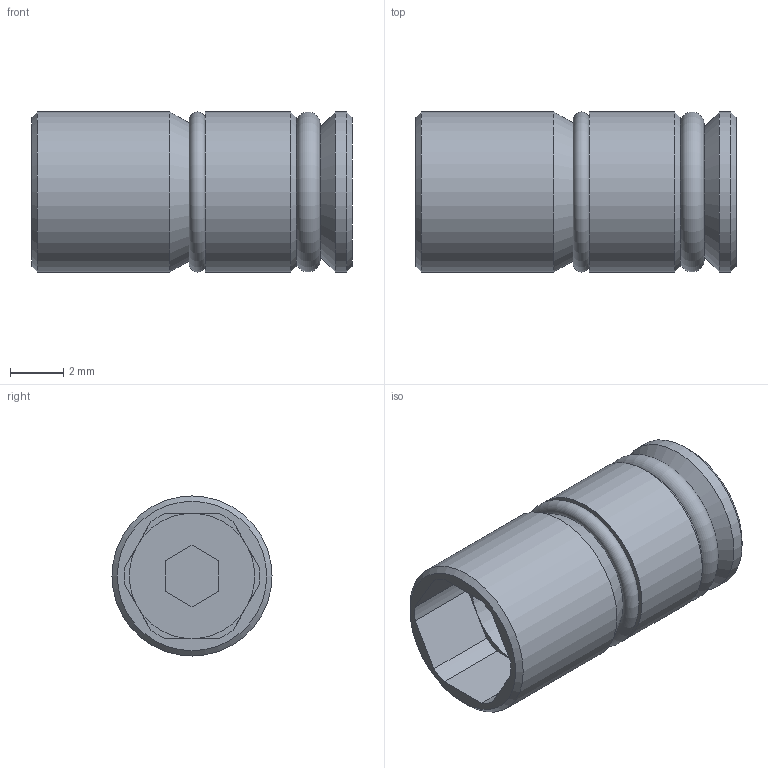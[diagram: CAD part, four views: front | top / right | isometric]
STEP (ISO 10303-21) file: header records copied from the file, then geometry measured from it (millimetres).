
FILE_DESCRIPTION( ( 'STEP AP214' ), '1' );
FILE_NAME( 'p:/temp/worker_237/temp/exporttempdir_2036_324_TSvW2/format_0/TRI-6L.stp', '2021-02-05T19:22:15', ( 'License CC BY-ND 4.0' ), ( 'CADENAS' ), ' ', 'PARTsolutions', ' ' );
FILE_SCHEMA( ( 'AUTOMOTIVE_DESIGN { 1 0 10303 214 1 1 1 1 }' ) );
Length unit declared in the file: millimetre
Products named in the file (1): _TRI-6L
Bounding box: 12 x 6 x 6 mm (x, y, z)
Volume: 234.2 mm3; surface area: 413.9 mm2
Topology: 1 solids, 1 shells, 41 faces, 91 edges, 56 vertices
Faces by surface type: plane 24, cylinder 10, cone 5, torus 2
Full cylindrical faces by diameter (mm): 4.7 x1, 6 x3
Entity records: 1422 total; most frequent: DIRECTION 196, CARTESIAN_POINT 180, ORIENTED_EDGE 160, EDGE_CURVE 80, AXIS2_PLACEMENT_3D 74, VERTEX_POINT 58, EDGE_LOOP 56, LINE 48
